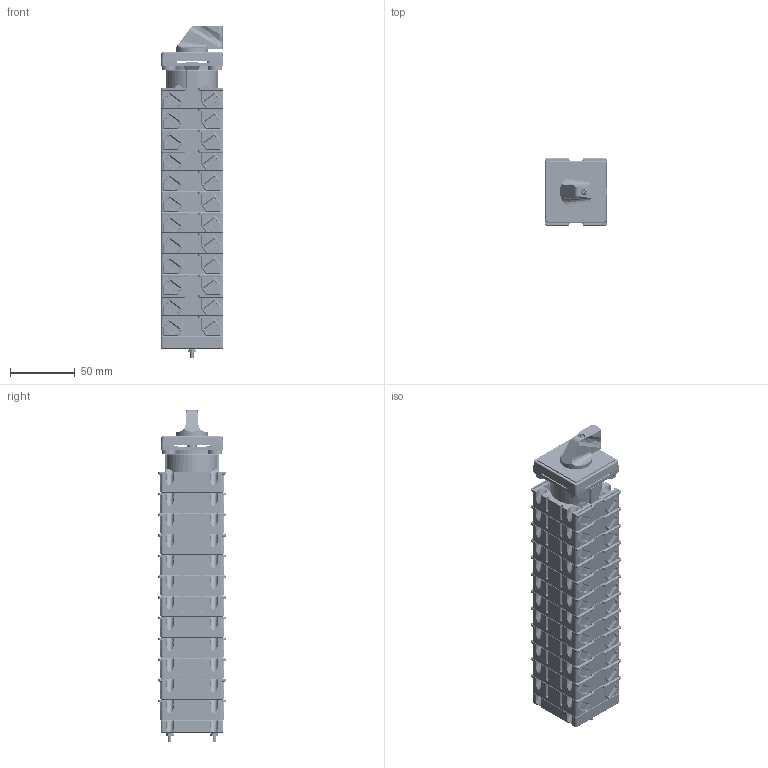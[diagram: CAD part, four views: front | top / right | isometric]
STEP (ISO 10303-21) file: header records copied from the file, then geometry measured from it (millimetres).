
FILE_DESCRIPTION (( 'STEP AP214' ), '1' );
FILE_NAME ('Ïåðåêëþ÷àòåëü 4G16, 25-XXXX-U-R114 ÃÆÈÊ.642212 12ê.STEP', '2024-07-31T08:18:14', ( '' ), ( '' ), 'SwSTEP 2.0', 'SolidWorks 2018', '' );
FILE_SCHEMA (( 'AUTOMOTIVE_DESIGN' ));
Length unit declared in the file: millimetre
Products named in the file (1): Ïåðåêëþ÷àòåëü 4G16, 25-XXXX-U-R114 ÃÆÈÊ.642212 12ê
Bounding box: 48 x 52 x 256.6 mm (x, y, z)
Volume: 479336 mm3; surface area: 190453.1 mm2
Topology: 32 solids, 128 shells, 10888 faces, 28713 edges, 18228 vertices
Faces by surface type: plane 6413, cylinder 3229, torus 552, cone 471, bspline 159, sphere 64
Entity records: 465676 total; most frequent: CARTESIAN_POINT 79203, ORIENTED_EDGE 57312, DIRECTION 53863, EDGE_CURVE 28656, LINE 20237, VECTOR 20237, VERTEX_POINT 18216, AXIS2_PLACEMENT_3D 16813
